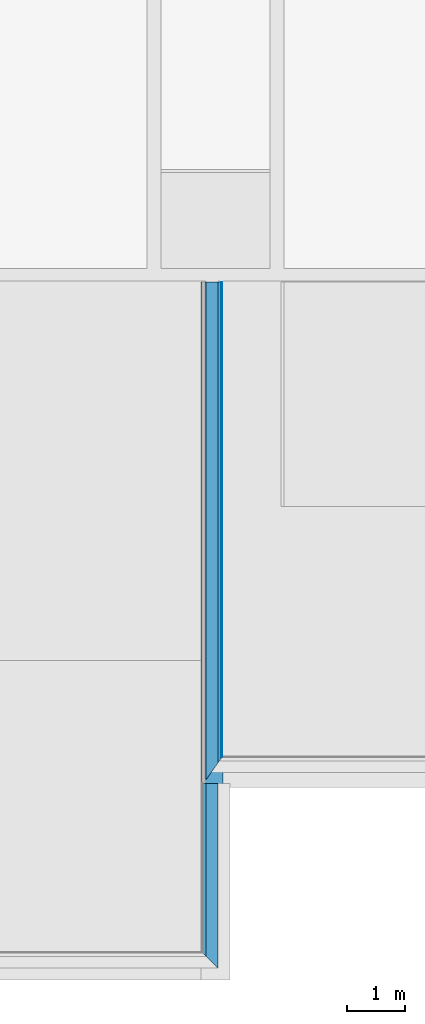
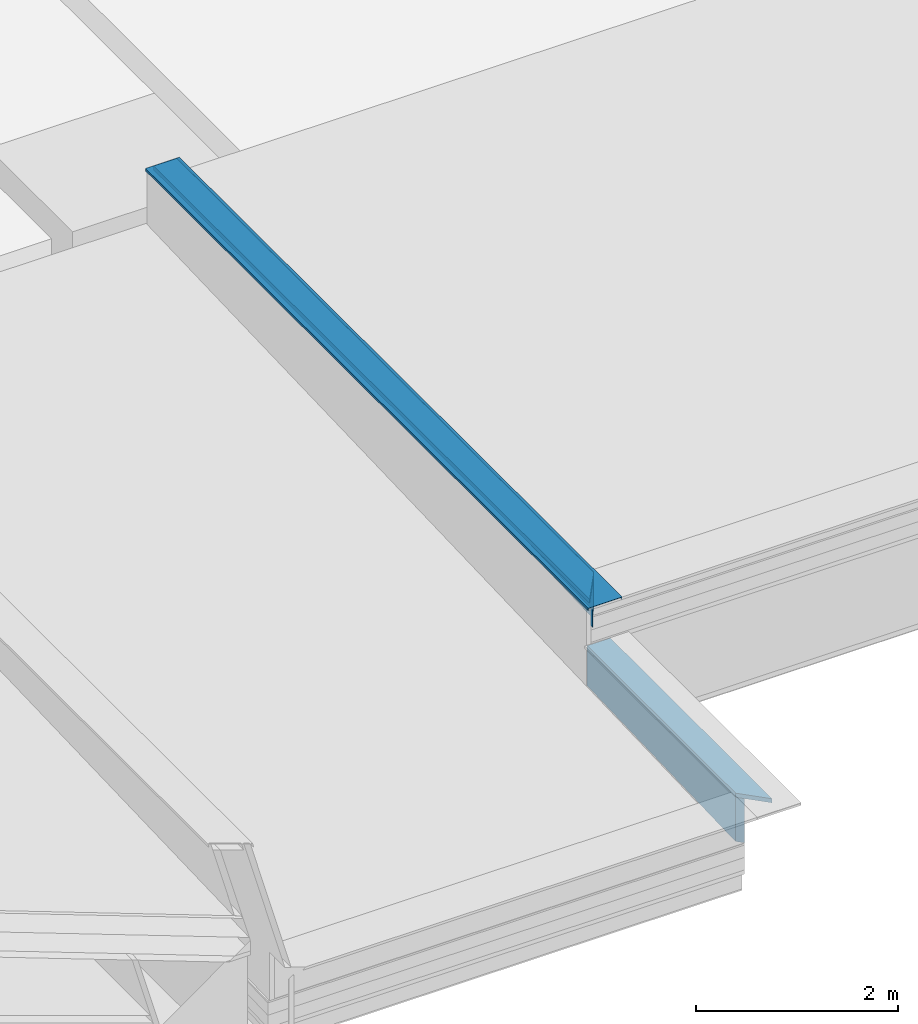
# One storey, part 4 of 13: 6 building element parts, 2 elements without a shape of their own.
"""IFC2X3 building model written with IfcOpenShell, lengths in metres."""

from ifc_helpers import new_model, entity, si_unit, converted_unit, derived_unit, money_unit, direction, frame, origin_with_axes, place, context, subcontext, project, spatial, polyline, outline, extrude, boolean, faceted_brep, material, type_object, element, aggregate, save


model = new_model("IFC2X3")

# Units and contexts
model_context = context("Model", 3, precision=1e-05, world=origin_with_axes(), true_north=direction((0.0, 1.0)))
body_context = subcontext(model_context, "Body", "Model", "MODEL_VIEW")
ifc_project = project(units=[si_unit("LENGTHUNIT", "METRE"), si_unit("AREAUNIT", "SQUARE_METRE"), si_unit("VOLUMEUNIT", "CUBIC_METRE"), converted_unit("PLANEANGLEUNIT", "DEGREE", entity("IfcPlaneAngleMeasure", 0.0174532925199), si_unit("PLANEANGLEUNIT", "RADIAN"), dimensions=[0, 0, 0, 0, 0, 0, 0]), money_unit("CHF"), converted_unit("TIMEUNIT", "Year", entity("IfcTimeMeasure", 31556926.0), si_unit("TIMEUNIT", "SECOND"), dimensions=[0, 0, 1, 0, 0, 0, 0]), si_unit("MASSUNIT", "GRAM", prefix="KILO"), si_unit("THERMODYNAMICTEMPERATUREUNIT", "DEGREE_CELSIUS"), si_unit("LUMINOUSINTENSITYUNIT", "LUMEN"), si_unit("ENERGYUNIT", "JOULE", prefix="MEGA"), derived_unit("THERMALCONDUCTANCEUNIT", [(si_unit("POWERUNIT", "WATT"), 1), (si_unit("LENGTHUNIT", "METRE"), -1), (si_unit("THERMODYNAMICTEMPERATUREUNIT", "KELVIN"), -1)]), derived_unit("SPECIFICHEATCAPACITYUNIT", [(si_unit("ENERGYUNIT", "JOULE"), 1), (si_unit("MASSUNIT", "GRAM", prefix="KILO"), -1), (si_unit("THERMODYNAMICTEMPERATUREUNIT", "KELVIN"), -1)]), derived_unit("MASSDENSITYUNIT", [(si_unit("MASSUNIT", "GRAM", prefix="KILO"), 1), (si_unit("VOLUMEUNIT", "CUBIC_METRE"), -1)])], contexts=[model_context])

# Site, building, storey
site_placement = place(None, origin_with_axes())
site = spatial("IfcSite", under=ifc_project, at=site_placement, Name="Site", CompositionType="ELEMENT")
building_placement = place(site_placement, origin_with_axes())
building = spatial("IfcBuilding", under=site, at=building_placement, Name="Bâtiment", CompositionType="ELEMENT")
storey_placement = place(building_placement, frame((0.0, 0.0, 3.0), z_axis=(0.0, 0.0, 1.0), x_axis=(1.0, 0.0, 0.0)))
storey = spatial("IfcBuildingStorey", under=building, at=storey_placement, Name="Toitures", CompositionType="ELEMENT", Elevation=3.0)

# Beam, building element parts
beam_type_1 = type_object("IfcBeamType", Name="couvertine mur iso 505 x 590", PredefinedType="BEAM")
beam_1_placement = place(storey_placement, frame((24.3494697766, 6.17012566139, 0.97), z_axis=(0.0, 0.0, 1.0), x_axis=(-1.0, 0.0, 0.0)))
beam_1 = element("IfcBeam", 1, at=beam_1_placement, inside=storey, type_object=beam_type_1, Name="POUTRE-001", ObjectType="BEAM")
ifc_material_1 = material(Name="Isolation - Polyuréthane (extérieur)")
building_element_part_1_placement = place(beam_1_placement, origin_with_axes())
building_element_part_1 = element("IfcBuildingElementPart", 2, at=building_element_part_1_placement, material=ifc_material_1, Name="Isolation - Polyuréthane (extérieur)", context=body_context, shape_type="CSG", body=[
    boolean("DIFFERENCE", boolean("DIFFERENCE", boolean("DIFFERENCE", boolean("DIFFERENCE", boolean("DIFFERENCE", boolean("DIFFERENCE", boolean("DIFFERENCE", extrude(outline(polyline([(0.0999999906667, -0.589639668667), (0.164999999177, -0.589639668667), (0.164999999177, -0.0549999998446), (0.0999999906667, -0.0549999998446), (0.0999999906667, -0.589639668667)])), frame((0.0, 3.41998014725, 0.0), z_axis=(0.0, -1.0, 0.0), x_axis=(1.0, 0.0, 0.0)), (0.0, 0.0, 1.0), 3.41998014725), faceted_brep([(0.164999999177, 2.94496015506, -0.0549999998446), (0.164999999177, 2.94496015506, -0.005), (0.164999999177, 3.41998014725, -0.005), (0.164999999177, 3.41998014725, -0.0549999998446), (0.174999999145, 2.93496015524, -0.005), (0.164999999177, 2.94496015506, -0.589639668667), (0.174999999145, 2.93496015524, -0.589639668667), (0.174999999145, 3.41998014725, -0.005), (0.174999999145, 3.41998014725, -0.589639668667), (0.164999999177, 3.41998014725, -0.589639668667)], [[[0, 1, 2, 3]], [[4, 1, 0, 5, 6]], [[1, 4, 7, 2]], [[8, 9, 3, 2, 7]], [[5, 0, 3, 9]], [[6, 5, 9, 8]], [[4, 6, 8, 7]]])), faceted_brep([(0.174999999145, 0.0, -0.490319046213), (0.164999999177, 0.0, -0.490319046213), (0.164999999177, 0.0, -0.589639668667), (0.174999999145, 0.0, -0.589639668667), (0.164999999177, 2.83773207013, -0.589639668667), (0.174999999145, 2.83773207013, -0.589639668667)], [[[0, 1, 2, 3]], [[4, 1, 0, 5]], [[1, 4, 2]], [[4, 5, 3, 2]], [[5, 0, 3]]])), faceted_brep([(-0.31, 3.41998014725, -0.03000000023), (-0.31, 3.41996014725, -0.03000000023), (-0.31, 3.41996014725, -1.56462309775e-09), (-0.31, 3.41998014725, -1.56462309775e-09), (-0.3049999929, 3.41998014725, -0.03000000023), (-0.3049999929, 3.41496014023, -0.03000000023), (0.194999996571, 2.91496015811, -0.03000000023), (0.194999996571, 2.91496015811, -1.56462309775e-09), (-0.3049999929, 3.41496014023, -0.0049999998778), (-0.1, 3.20996015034, -0.005), (0.165, 2.94496015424, -0.005), (0.175000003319, 2.93496015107, -0.0049999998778), (0.189999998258, 2.91996015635, -0.0049999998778), (0.189999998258, 2.91996015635, -0.03000000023), (0.194999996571, 3.41998014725, -1.56462309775e-09), (0.194999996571, 3.41998014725, -0.03000000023), (0.189999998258, 3.41998014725, -0.03000000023), (0.189999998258, 3.41998014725, -0.0049999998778), (0.175000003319, 3.41998014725, -0.0049999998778), (0.164999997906, 3.41998014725, -0.0049999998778), (-0.100000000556, 3.41998014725, -0.0049999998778), (-0.3049999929, 3.41998014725, -0.0049999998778)], [[[0, 1, 2, 3]], [[4, 5, 1, 0]], [[6, 7, 2, 1, 5, 8, 9, 10, 11, 12, 13]], [[3, 2, 7, 14]], [[0, 3, 14, 15, 16, 17, 18, 19, 20, 21, 4]], [[21, 8, 5, 4]], [[14, 7, 6, 15]], [[20, 9, 8, 21]], [[19, 10, 9, 20]], [[18, 11, 10, 19]], [[17, 12, 11, 18]], [[16, 13, 12, 17]], [[15, 6, 13, 16]]])), faceted_brep([(-0.29, 0.0, -1.56462309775e-09), (-0.29, 0.05, -1.56462309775e-09), (-0.31, 0.05, -1.56462309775e-09), (-0.31, 0.0, -1.56462309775e-09), (-0.29, 0.0, -0.0049999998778), (-0.29, 0.05, -0.0049999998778), (-0.31, 0.05, -0.03000000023), (-0.3049999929, 0.05, -0.0049999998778), (-0.3049999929, 0.05, -0.03000000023), (-0.31, 0.0, -0.03000000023), (-0.3049999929, 0.0, -0.03000000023), (-0.3049999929, 0.0, -0.0049999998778)], [[[0, 1, 2, 3]], [[1, 0, 4, 5]], [[6, 2, 1, 5, 7, 8]], [[2, 6, 9, 3]], [[4, 0, 3, 9, 10, 11]], [[5, 4, 11, 7]], [[8, 7, 11, 10]], [[6, 8, 10, 9]]])), faceted_brep([(0.0999999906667, 3.41998014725, -0.589639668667), (0.0999999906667, 3.00996016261, -0.589639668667), (0.0999999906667, 3.00996016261, -0.0549999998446), (0.0999999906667, 3.41998014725, -0.0549999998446), (0.164999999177, 3.41998014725, -0.589639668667), (0.164999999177, 2.94496015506, -0.589639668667), (0.16499999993, 2.94496015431, -0.0549999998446), (0.164999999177, 3.41998014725, -0.0549999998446)], [[[0, 1, 2, 3]], [[4, 5, 1, 0]], [[5, 6, 2, 1]], [[3, 2, 6, 7]], [[7, 4, 0, 3]], [[7, 6, 5, 4]]])), faceted_brep([(0.164999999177, 0.0, -0.589639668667), (0.164999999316, 0.0, -0.490319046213), (0.1, 0.0, -0.490319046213), (0.0999999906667, 0.0, -0.589639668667), (0.164999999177, 2.83773207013, -0.589639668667), (0.1, 2.83773207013, -0.589639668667)], [[[0, 1, 2, 3]], [[0, 4, 1]], [[4, 5, 2, 1]], [[3, 2, 5]], [[3, 5, 4, 0]]])), faceted_brep([(-0.1, 3.41998014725, -0.055), (-0.1, 3.20996015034, -0.055), (-0.1, 3.20996015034, -0.005), (-0.1, 3.41998014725, -0.005), (0.0999999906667, 3.41998014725, -0.0549999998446), (0.0999999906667, 3.00996016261, -0.0549999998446), (0.165, 2.94496015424, -0.005), (0.16499999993, 2.94496015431, -0.055), (0.165, 3.41998014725, -0.005), (0.165, 3.41998014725, -0.055)], [[[0, 1, 2, 3]], [[4, 5, 1, 0]], [[6, 2, 1, 5, 7]], [[3, 2, 6, 8]], [[4, 0, 3, 8, 9]], [[9, 7, 5, 4]], [[8, 6, 7, 9]]])),
])
building_element_part_2_placement = place(beam_1_placement, origin_with_axes())
building_element_part_2 = element("IfcBuildingElementPart", 3, at=building_element_part_2_placement, material=ifc_material_1, Name="Isolation - Polyuréthane (extérieur)", context=body_context, shape_type="CSG", body=[
    boolean("DIFFERENCE", boolean("DIFFERENCE", boolean("DIFFERENCE", boolean("DIFFERENCE", boolean("DIFFERENCE", boolean("DIFFERENCE", boolean("DIFFERENCE", extrude(outline(polyline([(-0.1, -0.005), (-0.1, -0.055), (0.0999999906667, -0.0549999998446), (0.165, -0.055), (0.165, -0.005), (-0.1, -0.005)])), frame((0.0, 3.41998014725, 0.0), z_axis=(0.0, -1.0, 0.0), x_axis=(1.0, 0.0, 0.0)), (0.0, 0.0, 1.0), 3.41998014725), faceted_brep([(0.164999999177, 2.94496015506, -0.0549999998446), (0.164999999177, 2.94496015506, -0.005), (0.164999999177, 3.41998014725, -0.005), (0.164999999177, 3.41998014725, -0.0549999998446), (0.174999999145, 2.93496015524, -0.005), (0.164999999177, 2.94496015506, -0.589639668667), (0.174999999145, 2.93496015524, -0.589639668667), (0.174999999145, 3.41998014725, -0.005), (0.174999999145, 3.41998014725, -0.589639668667), (0.164999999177, 3.41998014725, -0.589639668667)], [[[0, 1, 2, 3]], [[4, 1, 0, 5, 6]], [[1, 4, 7, 2]], [[8, 9, 3, 2, 7]], [[5, 0, 3, 9]], [[6, 5, 9, 8]], [[4, 6, 8, 7]]])), faceted_brep([(0.174999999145, 0.0, -0.490319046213), (0.164999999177, 0.0, -0.490319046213), (0.164999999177, 0.0, -0.589639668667), (0.174999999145, 0.0, -0.589639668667), (0.164999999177, 2.83773207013, -0.589639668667), (0.174999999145, 2.83773207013, -0.589639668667)], [[[0, 1, 2, 3]], [[4, 1, 0, 5]], [[1, 4, 2]], [[4, 5, 3, 2]], [[5, 0, 3]]])), faceted_brep([(-0.31, 3.41998014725, -0.03000000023), (-0.31, 3.41996014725, -0.03000000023), (-0.31, 3.41996014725, -1.56462309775e-09), (-0.31, 3.41998014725, -1.56462309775e-09), (-0.3049999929, 3.41998014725, -0.03000000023), (-0.3049999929, 3.41496014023, -0.03000000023), (0.194999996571, 2.91496015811, -0.03000000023), (0.194999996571, 2.91496015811, -1.56462309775e-09), (-0.3049999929, 3.41496014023, -0.0049999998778), (-0.1, 3.20996015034, -0.005), (0.165, 2.94496015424, -0.005), (0.175000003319, 2.93496015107, -0.0049999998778), (0.189999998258, 2.91996015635, -0.0049999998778), (0.189999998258, 2.91996015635, -0.03000000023), (0.194999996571, 3.41998014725, -1.56462309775e-09), (0.194999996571, 3.41998014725, -0.03000000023), (0.189999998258, 3.41998014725, -0.03000000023), (0.189999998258, 3.41998014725, -0.0049999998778), (0.175000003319, 3.41998014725, -0.0049999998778), (0.164999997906, 3.41998014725, -0.0049999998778), (-0.100000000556, 3.41998014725, -0.0049999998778), (-0.3049999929, 3.41998014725, -0.0049999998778)], [[[0, 1, 2, 3]], [[4, 5, 1, 0]], [[6, 7, 2, 1, 5, 8, 9, 10, 11, 12, 13]], [[3, 2, 7, 14]], [[0, 3, 14, 15, 16, 17, 18, 19, 20, 21, 4]], [[21, 8, 5, 4]], [[14, 7, 6, 15]], [[20, 9, 8, 21]], [[19, 10, 9, 20]], [[18, 11, 10, 19]], [[17, 12, 11, 18]], [[16, 13, 12, 17]], [[15, 6, 13, 16]]])), faceted_brep([(-0.29, 0.0, -1.56462309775e-09), (-0.29, 0.05, -1.56462309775e-09), (-0.31, 0.05, -1.56462309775e-09), (-0.31, 0.0, -1.56462309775e-09), (-0.29, 0.0, -0.0049999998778), (-0.29, 0.05, -0.0049999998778), (-0.31, 0.05, -0.03000000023), (-0.3049999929, 0.05, -0.0049999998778), (-0.3049999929, 0.05, -0.03000000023), (-0.31, 0.0, -0.03000000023), (-0.3049999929, 0.0, -0.03000000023), (-0.3049999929, 0.0, -0.0049999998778)], [[[0, 1, 2, 3]], [[1, 0, 4, 5]], [[6, 2, 1, 5, 7, 8]], [[2, 6, 9, 3]], [[4, 0, 3, 9, 10, 11]], [[5, 4, 11, 7]], [[8, 7, 11, 10]], [[6, 8, 10, 9]]])), faceted_brep([(0.0999999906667, 3.41998014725, -0.589639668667), (0.0999999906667, 3.00996016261, -0.589639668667), (0.0999999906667, 3.00996016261, -0.0549999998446), (0.0999999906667, 3.41998014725, -0.0549999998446), (0.164999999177, 3.41998014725, -0.589639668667), (0.164999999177, 2.94496015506, -0.589639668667), (0.16499999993, 2.94496015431, -0.0549999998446), (0.164999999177, 3.41998014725, -0.0549999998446)], [[[0, 1, 2, 3]], [[4, 5, 1, 0]], [[5, 6, 2, 1]], [[3, 2, 6, 7]], [[7, 4, 0, 3]], [[7, 6, 5, 4]]])), faceted_brep([(0.164999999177, 0.0, -0.589639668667), (0.164999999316, 0.0, -0.490319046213), (0.1, 0.0, -0.490319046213), (0.0999999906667, 0.0, -0.589639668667), (0.164999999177, 2.83773207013, -0.589639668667), (0.1, 2.83773207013, -0.589639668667)], [[[0, 1, 2, 3]], [[0, 4, 1]], [[4, 5, 2, 1]], [[3, 2, 5]], [[3, 5, 4, 0]]])), faceted_brep([(-0.1, 3.41998014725, -0.055), (-0.1, 3.20996015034, -0.055), (-0.1, 3.20996015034, -0.005), (-0.1, 3.41998014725, -0.005), (0.0999999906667, 3.41998014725, -0.0549999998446), (0.0999999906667, 3.00996016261, -0.0549999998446), (0.165, 2.94496015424, -0.005), (0.16499999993, 2.94496015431, -0.055), (0.165, 3.41998014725, -0.005), (0.165, 3.41998014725, -0.055)], [[[0, 1, 2, 3]], [[4, 5, 1, 0]], [[6, 2, 1, 5, 7]], [[3, 2, 6, 8]], [[4, 0, 3, 8, 9]], [[9, 7, 5, 4]], [[8, 6, 7, 9]]])),
])
aggregate(beam_1, [building_element_part_1, building_element_part_2])

beam_type_2 = type_object("IfcBeamType", Name="Couvertine mur  390 x 590", PredefinedType="BEAM")
beam_2_placement = place(storey_placement, frame((24.3494697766, 14.8800000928, 1.47), z_axis=(0.0, 0.0, 1.0), x_axis=(-1.0, 0.0, 0.0)))
beam_2 = element("IfcBeam", 4, at=beam_2_placement, inside=storey, type_object=beam_type_2, Name="POUTRE-001", ObjectType="BEAM")
ifc_material_2 = material(Name="Etanchéité")
building_element_part_3_placement = place(beam_2_placement, origin_with_axes())
building_element_part_3 = element("IfcBuildingElementPart", 5, at=building_element_part_3_placement, material=ifc_material_2, Name="Etanchéité", context=body_context, shape_type="CSG", body=[
    boolean("DIFFERENCE", boolean("DIFFERENCE", boolean("DIFFERENCE", boolean("DIFFERENCE", extrude(outline(polyline([(-0.175, -0.589639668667), (-0.165000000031, -0.589639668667), (-0.165000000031, -0.0549999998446), (-0.165000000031, -0.005), (-0.175, -0.005), (-0.175, -0.589639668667)])), frame((0.0, 8.77989443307, 0.0), z_axis=(0.0, -1.0, 0.0), x_axis=(1.0, 0.0, 0.0)), (0.0, 0.0, 1.0), 8.77989443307), faceted_brep([(-0.165000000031, 0.0, -0.185473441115), (-0.175, 0.0, -0.185473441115), (-0.175, 0.0, -0.589639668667), (-0.165000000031, 0.0, -0.589639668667), (-0.175, 8.25333596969, -0.474340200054), (-0.165000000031, 8.26756673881, -0.474838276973), (-0.175, 8.25333596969, -0.005), (-0.175, 8.77989443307, -0.005), (-0.175, 8.77989443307, -0.589639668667), (-0.165000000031, 8.77989443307, -0.589639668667), (-0.165000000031, 8.77989443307, -0.0549999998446), (-0.165000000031, 8.26756673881, -0.0549999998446), (-0.165000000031, 8.26756673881, -0.005), (-0.165000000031, 8.77989443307, -0.005)], [[[0, 1, 2, 3]], [[4, 1, 0, 5]], [[4, 6, 7, 8, 2, 1]], [[3, 2, 8, 9]], [[5, 0, 3, 9, 10, 11]], [[12, 6, 4, 5, 11]], [[6, 12, 13, 7]], [[10, 9, 8, 7, 13]], [[12, 11, 10, 13]]])), faceted_brep([(-0.195, 8.77989443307, -0.0300000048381), (-0.195, 8.22487443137, -0.0300000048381), (-0.195, 8.22487443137, 2.83758261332e-09), (-0.195, 8.77989443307, 2.8375835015e-09), (-0.190000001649, 8.77989443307, -0.0300000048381), (-0.190000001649, 8.2319898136, -0.0300000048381), (0.195000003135, 8.77987443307, -0.0300000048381), (0.195000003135, 8.77987443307, 2.8375835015e-09), (-0.190000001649, 8.2319898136, -0.00500000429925), (-0.174999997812, 8.25333597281, -0.00500000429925), (-0.165, 8.26756673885, -0.005), (0.0999999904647, 8.64468210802, -0.005), (0.190000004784, 8.77275905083, -0.00500000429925), (0.190000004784, 8.77275905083, -0.0300000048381), (0.195000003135, 8.77989443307, 2.8375835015e-09), (-0.190000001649, 8.77989443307, -0.00500000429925), (0.195000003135, 8.77989443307, -0.0300000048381), (0.190000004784, 8.77989443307, -0.0300000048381), (0.190000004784, 8.77989443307, -0.00500000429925), (0.0999999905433, 8.77989443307, -0.00500000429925), (-0.165000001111, 8.77989443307, -0.00500000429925), (-0.174999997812, 8.77989443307, -0.00500000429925)], [[[0, 1, 2, 3]], [[4, 5, 1, 0]], [[6, 7, 2, 1, 5, 8, 9, 10, 11, 12, 13]], [[3, 2, 7, 14]], [[15, 4, 0, 3, 14, 16, 17, 18, 19, 20, 21]], [[15, 8, 5, 4]], [[14, 7, 6, 16]], [[21, 9, 8, 15]], [[20, 10, 9, 21]], [[19, 11, 10, 20]], [[18, 12, 11, 19]], [[17, 13, 12, 18]], [[16, 6, 13, 17]]])), faceted_brep([(-0.165, 8.77989443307, -0.0549999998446), (-0.165, 8.26756673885, -0.0549999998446), (-0.165, 8.26756673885, -0.005), (-0.165, 8.77989443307, -0.005), (-0.0999999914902, 8.77989443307, -0.0549999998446), (-0.0999999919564, 8.36006674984, -0.055), (0.0999999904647, 8.64468210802, -0.005), (0.0999999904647, 8.64468210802, -0.0549999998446), (0.0999999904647, 8.77989443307, -0.005), (0.0999999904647, 8.77989443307, -0.0549999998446)], [[[0, 1, 2, 3]], [[4, 5, 1, 0]], [[6, 2, 1, 5, 7]], [[3, 2, 6, 8]], [[4, 0, 3, 8, 9]], [[9, 7, 5, 4]], [[8, 6, 7, 9]]])), faceted_brep([(-0.0999999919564, 0.0, -0.589639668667), (-0.1, 0.0, -0.185473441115), (-0.165, 0.0, -0.185473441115), (-0.165, 0.0, -0.589639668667), (-0.0999999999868, 8.31987443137, -0.589639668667), (-0.1, 8.31987443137, -0.476669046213), (-0.12824324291, 8.31987443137, -0.476669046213), (-0.165, 8.26756673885, -0.474838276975), (-0.165, 8.26756673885, -0.055), (-0.165, 8.77989443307, -0.055), (-0.165, 8.77989443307, -0.589639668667), (-0.0999999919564, 8.36006674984, -0.589639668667), (-0.128243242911, 8.31987443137, -0.589639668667), (-0.0999999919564, 8.77989443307, -0.589639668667), (-0.0999999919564, 8.36006674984, -0.055), (-0.0999999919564, 8.77989443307, -0.055)], [[[0, 1, 2, 3]], [[4, 5, 1, 0]], [[6, 7, 2, 1, 5]], [[2, 7, 8, 9, 10, 3]], [[11, 12, 4, 0, 3, 10, 13]], [[5, 4, 12, 6]], [[11, 14, 8, 7, 6, 12]], [[9, 8, 14, 15]], [[10, 9, 15, 13]], [[15, 14, 11, 13]]])),
])
ifc_material_3 = material(Name="Aluminium")
building_element_part_4_placement = place(beam_2_placement, origin_with_axes())
building_element_part_4 = element("IfcBuildingElementPart", 6, at=building_element_part_4_placement, material=ifc_material_3, Name="Aluminium", context=body_context, shape_type="CSG", body=[
    boolean("DIFFERENCE", boolean("DIFFERENCE", boolean("DIFFERENCE", boolean("DIFFERENCE", extrude(outline(polyline([(-0.195, -0.0300000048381), (-0.190000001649, -0.0300000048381), (-0.190000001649, -0.00500000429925), (-0.174999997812, -0.00500000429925), (-0.165000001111, -0.00500000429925), (0.0999999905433, -0.00500000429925), (0.190000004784, -0.00500000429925), (0.190000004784, -0.0300000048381), (0.195000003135, -0.0300000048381), (0.195000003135, 2.83758305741e-09), (-0.195, 2.83758305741e-09), (-0.195, -0.0300000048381)])), frame((0.0, 8.77989443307, 0.0), z_axis=(0.0, -1.0, 0.0), x_axis=(1.0, 0.0, 0.0)), (0.0, 0.0, 1.0), 8.77989443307), faceted_brep([(-0.165000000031, 0.0, -0.185473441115), (-0.175, 0.0, -0.185473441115), (-0.175, 0.0, -0.589639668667), (-0.165000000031, 0.0, -0.589639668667), (-0.175, 8.25333596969, -0.474340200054), (-0.165000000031, 8.26756673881, -0.474838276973), (-0.175, 8.25333596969, -0.005), (-0.175, 8.77989443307, -0.005), (-0.175, 8.77989443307, -0.589639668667), (-0.165000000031, 8.77989443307, -0.589639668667), (-0.165000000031, 8.77989443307, -0.0549999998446), (-0.165000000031, 8.26756673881, -0.0549999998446), (-0.165000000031, 8.26756673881, -0.005), (-0.165000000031, 8.77989443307, -0.005)], [[[0, 1, 2, 3]], [[4, 1, 0, 5]], [[4, 6, 7, 8, 2, 1]], [[3, 2, 8, 9]], [[5, 0, 3, 9, 10, 11]], [[12, 6, 4, 5, 11]], [[6, 12, 13, 7]], [[10, 9, 8, 7, 13]], [[12, 11, 10, 13]]])), faceted_brep([(-0.195, 8.77989443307, -0.0300000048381), (-0.195, 8.22487443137, -0.0300000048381), (-0.195, 8.22487443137, 2.83758261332e-09), (-0.195, 8.77989443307, 2.8375835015e-09), (-0.190000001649, 8.77989443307, -0.0300000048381), (-0.190000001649, 8.2319898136, -0.0300000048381), (0.195000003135, 8.77987443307, -0.0300000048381), (0.195000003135, 8.77987443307, 2.8375835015e-09), (-0.190000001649, 8.2319898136, -0.00500000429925), (-0.174999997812, 8.25333597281, -0.00500000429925), (-0.165, 8.26756673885, -0.005), (0.0999999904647, 8.64468210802, -0.005), (0.190000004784, 8.77275905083, -0.00500000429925), (0.190000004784, 8.77275905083, -0.0300000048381), (0.195000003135, 8.77989443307, 2.8375835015e-09), (-0.190000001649, 8.77989443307, -0.00500000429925), (0.195000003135, 8.77989443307, -0.0300000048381), (0.190000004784, 8.77989443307, -0.0300000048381), (0.190000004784, 8.77989443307, -0.00500000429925), (0.0999999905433, 8.77989443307, -0.00500000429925), (-0.165000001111, 8.77989443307, -0.00500000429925), (-0.174999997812, 8.77989443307, -0.00500000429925)], [[[0, 1, 2, 3]], [[4, 5, 1, 0]], [[6, 7, 2, 1, 5, 8, 9, 10, 11, 12, 13]], [[3, 2, 7, 14]], [[15, 4, 0, 3, 14, 16, 17, 18, 19, 20, 21]], [[15, 8, 5, 4]], [[14, 7, 6, 16]], [[21, 9, 8, 15]], [[20, 10, 9, 21]], [[19, 11, 10, 20]], [[18, 12, 11, 19]], [[17, 13, 12, 18]], [[16, 6, 13, 17]]])), faceted_brep([(-0.165, 8.77989443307, -0.0549999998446), (-0.165, 8.26756673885, -0.0549999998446), (-0.165, 8.26756673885, -0.005), (-0.165, 8.77989443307, -0.005), (-0.0999999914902, 8.77989443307, -0.0549999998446), (-0.0999999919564, 8.36006674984, -0.055), (0.0999999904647, 8.64468210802, -0.005), (0.0999999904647, 8.64468210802, -0.0549999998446), (0.0999999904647, 8.77989443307, -0.005), (0.0999999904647, 8.77989443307, -0.0549999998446)], [[[0, 1, 2, 3]], [[4, 5, 1, 0]], [[6, 2, 1, 5, 7]], [[3, 2, 6, 8]], [[4, 0, 3, 8, 9]], [[9, 7, 5, 4]], [[8, 6, 7, 9]]])), faceted_brep([(-0.0999999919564, 0.0, -0.589639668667), (-0.1, 0.0, -0.185473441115), (-0.165, 0.0, -0.185473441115), (-0.165, 0.0, -0.589639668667), (-0.0999999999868, 8.31987443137, -0.589639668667), (-0.1, 8.31987443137, -0.476669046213), (-0.12824324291, 8.31987443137, -0.476669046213), (-0.165, 8.26756673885, -0.474838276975), (-0.165, 8.26756673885, -0.055), (-0.165, 8.77989443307, -0.055), (-0.165, 8.77989443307, -0.589639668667), (-0.0999999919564, 8.36006674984, -0.589639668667), (-0.128243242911, 8.31987443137, -0.589639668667), (-0.0999999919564, 8.77989443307, -0.589639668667), (-0.0999999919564, 8.36006674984, -0.055), (-0.0999999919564, 8.77989443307, -0.055)], [[[0, 1, 2, 3]], [[4, 5, 1, 0]], [[6, 7, 2, 1, 5]], [[2, 7, 8, 9, 10, 3]], [[11, 12, 4, 0, 3, 10, 13]], [[5, 4, 12, 6]], [[11, 14, 8, 7, 6, 12]], [[9, 8, 14, 15]], [[10, 9, 15, 13]], [[15, 14, 11, 13]]])),
])
building_element_part_5_placement = place(beam_2_placement, origin_with_axes())
building_element_part_5 = element("IfcBuildingElementPart", 7, at=building_element_part_5_placement, material=ifc_material_1, Name="Isolation - Polyuréthane (extérieur)", context=body_context, shape_type="CSG", body=[
    boolean("DIFFERENCE", boolean("DIFFERENCE", boolean("DIFFERENCE", boolean("DIFFERENCE", extrude(outline(polyline([(-0.165, -0.005), (-0.165, -0.0549999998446), (-0.0999999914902, -0.0549999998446), (0.0999999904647, -0.0549999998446), (0.0999999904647, -0.005), (-0.165, -0.005)])), frame((0.0, 8.77989443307, 0.0), z_axis=(0.0, -1.0, 0.0), x_axis=(1.0, 0.0, 0.0)), (0.0, 0.0, 1.0), 8.77989443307), faceted_brep([(-0.165000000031, 0.0, -0.185473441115), (-0.175, 0.0, -0.185473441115), (-0.175, 0.0, -0.589639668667), (-0.165000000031, 0.0, -0.589639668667), (-0.175, 8.25333596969, -0.474340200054), (-0.165000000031, 8.26756673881, -0.474838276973), (-0.175, 8.25333596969, -0.005), (-0.175, 8.77989443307, -0.005), (-0.175, 8.77989443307, -0.589639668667), (-0.165000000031, 8.77989443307, -0.589639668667), (-0.165000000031, 8.77989443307, -0.0549999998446), (-0.165000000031, 8.26756673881, -0.0549999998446), (-0.165000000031, 8.26756673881, -0.005), (-0.165000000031, 8.77989443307, -0.005)], [[[0, 1, 2, 3]], [[4, 1, 0, 5]], [[4, 6, 7, 8, 2, 1]], [[3, 2, 8, 9]], [[5, 0, 3, 9, 10, 11]], [[12, 6, 4, 5, 11]], [[6, 12, 13, 7]], [[10, 9, 8, 7, 13]], [[12, 11, 10, 13]]])), faceted_brep([(-0.195, 8.77989443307, -0.0300000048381), (-0.195, 8.22487443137, -0.0300000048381), (-0.195, 8.22487443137, 2.83758261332e-09), (-0.195, 8.77989443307, 2.8375835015e-09), (-0.190000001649, 8.77989443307, -0.0300000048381), (-0.190000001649, 8.2319898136, -0.0300000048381), (0.195000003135, 8.77987443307, -0.0300000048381), (0.195000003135, 8.77987443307, 2.8375835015e-09), (-0.190000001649, 8.2319898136, -0.00500000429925), (-0.174999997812, 8.25333597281, -0.00500000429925), (-0.165, 8.26756673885, -0.005), (0.0999999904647, 8.64468210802, -0.005), (0.190000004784, 8.77275905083, -0.00500000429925), (0.190000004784, 8.77275905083, -0.0300000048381), (0.195000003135, 8.77989443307, 2.8375835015e-09), (-0.190000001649, 8.77989443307, -0.00500000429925), (0.195000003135, 8.77989443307, -0.0300000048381), (0.190000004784, 8.77989443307, -0.0300000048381), (0.190000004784, 8.77989443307, -0.00500000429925), (0.0999999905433, 8.77989443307, -0.00500000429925), (-0.165000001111, 8.77989443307, -0.00500000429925), (-0.174999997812, 8.77989443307, -0.00500000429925)], [[[0, 1, 2, 3]], [[4, 5, 1, 0]], [[6, 7, 2, 1, 5, 8, 9, 10, 11, 12, 13]], [[3, 2, 7, 14]], [[15, 4, 0, 3, 14, 16, 17, 18, 19, 20, 21]], [[15, 8, 5, 4]], [[14, 7, 6, 16]], [[21, 9, 8, 15]], [[20, 10, 9, 21]], [[19, 11, 10, 20]], [[18, 12, 11, 19]], [[17, 13, 12, 18]], [[16, 6, 13, 17]]])), faceted_brep([(-0.165, 8.77989443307, -0.0549999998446), (-0.165, 8.26756673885, -0.0549999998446), (-0.165, 8.26756673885, -0.005), (-0.165, 8.77989443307, -0.005), (-0.0999999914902, 8.77989443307, -0.0549999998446), (-0.0999999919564, 8.36006674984, -0.055), (0.0999999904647, 8.64468210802, -0.005), (0.0999999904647, 8.64468210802, -0.0549999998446), (0.0999999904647, 8.77989443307, -0.005), (0.0999999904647, 8.77989443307, -0.0549999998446)], [[[0, 1, 2, 3]], [[4, 5, 1, 0]], [[6, 2, 1, 5, 7]], [[3, 2, 6, 8]], [[4, 0, 3, 8, 9]], [[9, 7, 5, 4]], [[8, 6, 7, 9]]])), faceted_brep([(-0.0999999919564, 0.0, -0.589639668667), (-0.1, 0.0, -0.185473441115), (-0.165, 0.0, -0.185473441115), (-0.165, 0.0, -0.589639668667), (-0.0999999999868, 8.31987443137, -0.589639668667), (-0.1, 8.31987443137, -0.476669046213), (-0.12824324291, 8.31987443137, -0.476669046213), (-0.165, 8.26756673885, -0.474838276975), (-0.165, 8.26756673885, -0.055), (-0.165, 8.77989443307, -0.055), (-0.165, 8.77989443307, -0.589639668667), (-0.0999999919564, 8.36006674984, -0.589639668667), (-0.128243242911, 8.31987443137, -0.589639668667), (-0.0999999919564, 8.77989443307, -0.589639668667), (-0.0999999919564, 8.36006674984, -0.055), (-0.0999999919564, 8.77989443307, -0.055)], [[[0, 1, 2, 3]], [[4, 5, 1, 0]], [[6, 7, 2, 1, 5]], [[2, 7, 8, 9, 10, 3]], [[11, 12, 4, 0, 3, 10, 13]], [[5, 4, 12, 6]], [[11, 14, 8, 7, 6, 12]], [[9, 8, 14, 15]], [[10, 9, 15, 13]], [[15, 14, 11, 13]]])),
])
building_element_part_6_placement = place(beam_2_placement, origin_with_axes())
building_element_part_6 = element("IfcBuildingElementPart", 8, at=building_element_part_6_placement, material=ifc_material_1, Name="Isolation - Polyuréthane (extérieur)", context=body_context, shape_type="CSG", body=[
    boolean("DIFFERENCE", boolean("DIFFERENCE", boolean("DIFFERENCE", boolean("DIFFERENCE", extrude(outline(polyline([(-0.0999999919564, -0.055), (-0.165, -0.055), (-0.165, -0.589639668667), (-0.0999999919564, -0.589639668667), (-0.0999999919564, -0.055)])), frame((0.0, 8.77989443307, 0.0), z_axis=(0.0, -1.0, 0.0), x_axis=(1.0, 0.0, 0.0)), (0.0, 0.0, 1.0), 8.77989443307), faceted_brep([(-0.165000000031, 0.0, -0.185473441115), (-0.175, 0.0, -0.185473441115), (-0.175, 0.0, -0.589639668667), (-0.165000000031, 0.0, -0.589639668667), (-0.175, 8.25333596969, -0.474340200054), (-0.165000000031, 8.26756673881, -0.474838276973), (-0.175, 8.25333596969, -0.005), (-0.175, 8.77989443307, -0.005), (-0.175, 8.77989443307, -0.589639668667), (-0.165000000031, 8.77989443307, -0.589639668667), (-0.165000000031, 8.77989443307, -0.0549999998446), (-0.165000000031, 8.26756673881, -0.0549999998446), (-0.165000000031, 8.26756673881, -0.005), (-0.165000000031, 8.77989443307, -0.005)], [[[0, 1, 2, 3]], [[4, 1, 0, 5]], [[4, 6, 7, 8, 2, 1]], [[3, 2, 8, 9]], [[5, 0, 3, 9, 10, 11]], [[12, 6, 4, 5, 11]], [[6, 12, 13, 7]], [[10, 9, 8, 7, 13]], [[12, 11, 10, 13]]])), faceted_brep([(-0.195, 8.77989443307, -0.0300000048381), (-0.195, 8.22487443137, -0.0300000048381), (-0.195, 8.22487443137, 2.83758261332e-09), (-0.195, 8.77989443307, 2.8375835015e-09), (-0.190000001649, 8.77989443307, -0.0300000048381), (-0.190000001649, 8.2319898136, -0.0300000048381), (0.195000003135, 8.77987443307, -0.0300000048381), (0.195000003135, 8.77987443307, 2.8375835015e-09), (-0.190000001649, 8.2319898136, -0.00500000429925), (-0.174999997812, 8.25333597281, -0.00500000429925), (-0.165, 8.26756673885, -0.005), (0.0999999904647, 8.64468210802, -0.005), (0.190000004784, 8.77275905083, -0.00500000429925), (0.190000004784, 8.77275905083, -0.0300000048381), (0.195000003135, 8.77989443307, 2.8375835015e-09), (-0.190000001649, 8.77989443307, -0.00500000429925), (0.195000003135, 8.77989443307, -0.0300000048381), (0.190000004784, 8.77989443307, -0.0300000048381), (0.190000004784, 8.77989443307, -0.00500000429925), (0.0999999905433, 8.77989443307, -0.00500000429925), (-0.165000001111, 8.77989443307, -0.00500000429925), (-0.174999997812, 8.77989443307, -0.00500000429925)], [[[0, 1, 2, 3]], [[4, 5, 1, 0]], [[6, 7, 2, 1, 5, 8, 9, 10, 11, 12, 13]], [[3, 2, 7, 14]], [[15, 4, 0, 3, 14, 16, 17, 18, 19, 20, 21]], [[15, 8, 5, 4]], [[14, 7, 6, 16]], [[21, 9, 8, 15]], [[20, 10, 9, 21]], [[19, 11, 10, 20]], [[18, 12, 11, 19]], [[17, 13, 12, 18]], [[16, 6, 13, 17]]])), faceted_brep([(-0.165, 8.77989443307, -0.0549999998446), (-0.165, 8.26756673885, -0.0549999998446), (-0.165, 8.26756673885, -0.005), (-0.165, 8.77989443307, -0.005), (-0.0999999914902, 8.77989443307, -0.0549999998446), (-0.0999999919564, 8.36006674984, -0.055), (0.0999999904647, 8.64468210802, -0.005), (0.0999999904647, 8.64468210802, -0.0549999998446), (0.0999999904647, 8.77989443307, -0.005), (0.0999999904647, 8.77989443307, -0.0549999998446)], [[[0, 1, 2, 3]], [[4, 5, 1, 0]], [[6, 2, 1, 5, 7]], [[3, 2, 6, 8]], [[4, 0, 3, 8, 9]], [[9, 7, 5, 4]], [[8, 6, 7, 9]]])), faceted_brep([(-0.0999999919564, 0.0, -0.589639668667), (-0.1, 0.0, -0.185473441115), (-0.165, 0.0, -0.185473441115), (-0.165, 0.0, -0.589639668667), (-0.0999999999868, 8.31987443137, -0.589639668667), (-0.1, 8.31987443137, -0.476669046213), (-0.12824324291, 8.31987443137, -0.476669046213), (-0.165, 8.26756673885, -0.474838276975), (-0.165, 8.26756673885, -0.055), (-0.165, 8.77989443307, -0.055), (-0.165, 8.77989443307, -0.589639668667), (-0.0999999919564, 8.36006674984, -0.589639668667), (-0.128243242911, 8.31987443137, -0.589639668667), (-0.0999999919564, 8.77989443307, -0.589639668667), (-0.0999999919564, 8.36006674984, -0.055), (-0.0999999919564, 8.77989443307, -0.055)], [[[0, 1, 2, 3]], [[4, 5, 1, 0]], [[6, 7, 2, 1, 5]], [[2, 7, 8, 9, 10, 3]], [[11, 12, 4, 0, 3, 10, 13]], [[5, 4, 12, 6]], [[11, 14, 8, 7, 6, 12]], [[9, 8, 14, 15]], [[10, 9, 15, 13]], [[15, 14, 11, 13]]])),
])
aggregate(beam_2, [building_element_part_3, building_element_part_4, building_element_part_5, building_element_part_6])

save(model, "model.ifc")
